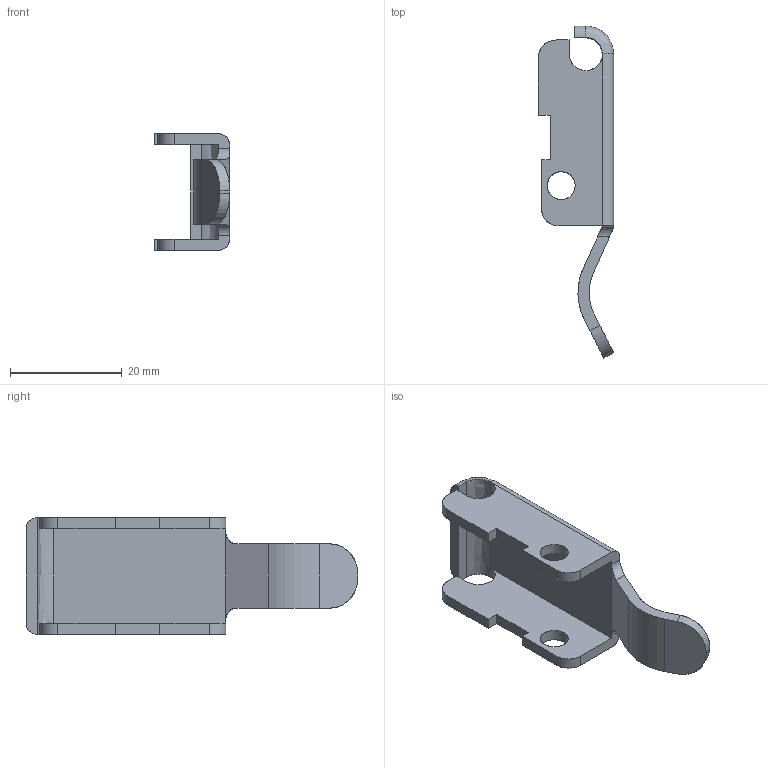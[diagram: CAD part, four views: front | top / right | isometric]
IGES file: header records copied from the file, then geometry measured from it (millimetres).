
Start section: SolidWorks IGES FILE using analytic representation for surfaces
Global section: file name: C:\Documents and Settings\lecoutey\Bureau\GO 24\24.010.10.IGS; native system: SolidWorks 2004 by SolidWorks Corporation; preprocessor: Version 5.3; author: lecoutey; date: 050329.093551; units: millimetre
Bounding box: 13.5 x 59.48 x 20.9 mm (x, y, z)
Surface area: 3854.8 mm2 (no closed solid volume)
Topology: 0 solids, 0 shells, 55 faces, 650 edges, 650 vertices
Faces by surface type: bspline 34, revolution 21
